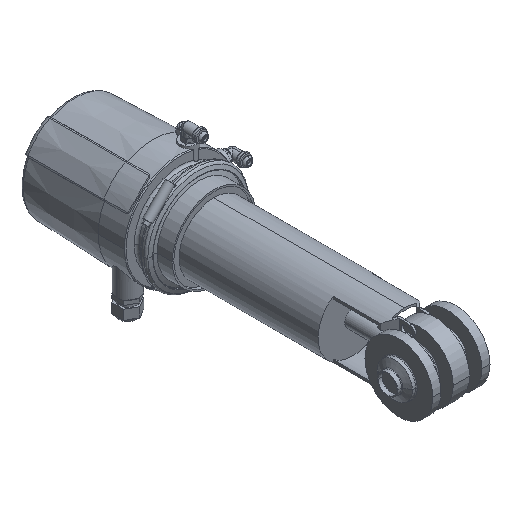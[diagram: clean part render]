
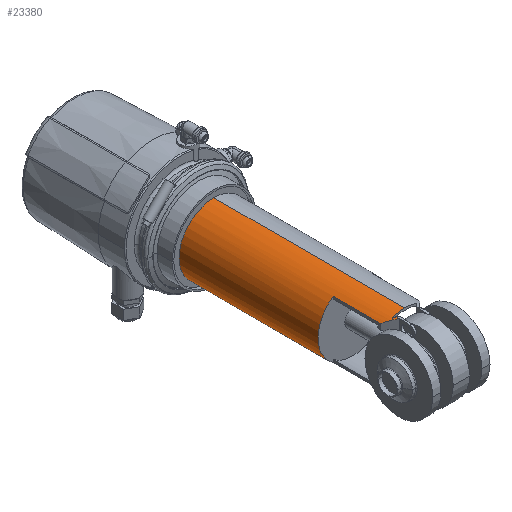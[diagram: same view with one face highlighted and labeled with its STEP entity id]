
A CAD part, isometric view. The second image highlights one B-rep face of the part: STEP entity #23380.
In plain terms, the highlighted cylindrical face has radius 42.5 mm (diameter 85 mm), a partial arc.
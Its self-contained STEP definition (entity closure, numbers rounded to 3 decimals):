
#16940=CARTESIAN_POINT('',(-66.14,291.989,
-40.62));
#16950=DIRECTION('',(0.,-1.,0.));
#16960=VECTOR('',#16950,1.);
#16970=LINE('',#16940,#16960);
#16980=CARTESIAN_POINT('',(-66.14,25.635,
-40.62));
#16990=VERTEX_POINT('',#16980);
#17020=CARTESIAN_POINT('',(-66.14,29.17,
-40.62));
#17030=VERTEX_POINT('',#17020);
#17040=EDGE_CURVE('',#17030,#16990,#16970,.T.);
#21120=CARTESIAN_POINT('',(-54.64,37.135,
-35.075));
#21130=VERTEX_POINT('',#21120);
#21570=CARTESIAN_POINT('',(-54.64,95.128,
-35.075));
#21580=VERTEX_POINT('',#21570);
#21610=CARTESIAN_POINT('',(-54.64,291.989,
-35.075));
#21620=DIRECTION('',(0.,-1.,0.));
#21630=VECTOR('',#21620,1.);
#21640=LINE('',#21610,#21630);
#21650=EDGE_CURVE('',#21580,#21130,#21640,.T.);
#22030=CARTESIAN_POINT('',(-78.64,95.128,
0.));
#22040=DIRECTION('',(0.,-1.,0.));
#22050=DIRECTION('',(0.,0.,1.));
#22060=AXIS2_PLACEMENT_3D('',#22030,#22040,#22050);
#22070=CYLINDRICAL_SURFACE('',#22060,42.5);
#22080=CARTESIAN_POINT('',(-78.64,95.128,-42.5));
#22090=DIRECTION('',(0.,-1.,0.));
#22100=VECTOR('',#22090,1.);
#22110=LINE('',#22080,#22100);
#22120=CARTESIAN_POINT('',(-78.64,265.128,-42.5));
#22130=VERTEX_POINT('',#22120);
#22140=CARTESIAN_POINT('',(-78.64,31.728,-42.5));
#22150=VERTEX_POINT('',#22140);
#22160=EDGE_CURVE('',#22130,#22150,#22110,.T.);
#22170=ORIENTED_EDGE('',*,*,#22160,.F.);
#22180=CARTESIAN_POINT('',(-78.64,31.728,
0.));
#22190=DIRECTION('',(0.,-1.,0.));
#22200=DIRECTION('',(0.,0.,-1.));
#22210=AXIS2_PLACEMENT_3D('',#22180,#22190,#22200);
#22220=CIRCLE('',#22210,42.5);
#22230=CARTESIAN_POINT('',(-63.582,31.728,
-39.743));
#22240=VERTEX_POINT('',#22230);
#22250=EDGE_CURVE('',#22150,#22240,#22220,.T.);
#22260=ORIENTED_EDGE('',*,*,#22250,.F.);
#22270=CARTESIAN_POINT('',(-78.64,16.67,
0.));
#22280=DIRECTION('',(-0.707,0.707,0.));
#22290=DIRECTION('',(0.707,0.707,0.));
#22300=AXIS2_PLACEMENT_3D('',#22270,#22280,#22290);
#22310=ELLIPSE('',#22300,60.104,42.5);
#22320=EDGE_CURVE('',#22240,#17030,#22310,.T.);
#22330=ORIENTED_EDGE('',*,*,#22320,.F.);
#22340=ORIENTED_EDGE('',*,*,#17040,.F.);
#22350=CARTESIAN_POINT('',(-78.64,13.135,
0.));
#22360=DIRECTION('',(0.707,-0.707,0.));
#22370=DIRECTION('',(-0.707,-0.707,0.));
#22380=AXIS2_PLACEMENT_3D('',#22350,#22360,#22370);
#22390=ELLIPSE('',#22380,60.104,42.5);
#22400=EDGE_CURVE('',#16990,#21130,#22390,.T.);
#22410=ORIENTED_EDGE('',*,*,#22400,.F.);
#22420=ORIENTED_EDGE('',*,*,#21650,.T.);
#22430=CARTESIAN_POINT('',(-78.64,95.128,
0.));
#22440=DIRECTION('',(0.,-1.,0.));
#22450=DIRECTION('',(0.,0.,-1.));
#22460=AXIS2_PLACEMENT_3D('',#22430,#22440,#22450);
#22470=CIRCLE('',#22460,42.5);
#22480=CARTESIAN_POINT('',(-54.64,95.128,
35.075));
#22490=VERTEX_POINT('',#22480);
#22500=EDGE_CURVE('',#21580,#22490,#22470,.T.);
#22510=ORIENTED_EDGE('',*,*,#22500,.F.);
#22520=CARTESIAN_POINT('',(-54.64,291.989,
35.075));
#22530=DIRECTION('',(0.,-1.,0.));
#22540=VECTOR('',#22530,1.);
#22550=LINE('',#22520,#22540);
#22560=CARTESIAN_POINT('',(-54.64,37.135,
35.075));
#22570=VERTEX_POINT('',#22560);
#22580=EDGE_CURVE('',#22490,#22570,#22550,.T.);
#22590=ORIENTED_EDGE('',*,*,#22580,.F.);
#22600=CARTESIAN_POINT('',(-78.64,13.135,
0.));
#22610=DIRECTION('',(-0.707,0.707,0.));
#22620=DIRECTION('',(-0.707,-0.707,0.));
#22630=AXIS2_PLACEMENT_3D('',#22600,#22610,#22620);
#22640=ELLIPSE('',#22630,60.104,42.5);
#22650=CARTESIAN_POINT('',(-66.14,25.635,
40.62));
#22660=VERTEX_POINT('',#22650);
#22670=EDGE_CURVE('',#22660,#22570,#22640,.T.);
#22680=ORIENTED_EDGE('',*,*,#22670,.T.);
#22690=CARTESIAN_POINT('',(-66.14,291.989,
40.62));
#22700=DIRECTION('',(0.,-1.,0.));
#22710=VECTOR('',#22700,1.);
#22720=LINE('',#22690,#22710);
#22730=CARTESIAN_POINT('',(-66.14,19.18,
40.62));
#22740=VERTEX_POINT('',#22730);
#22750=EDGE_CURVE('',#22660,#22740,#22720,.T.);
#22760=ORIENTED_EDGE('',*,*,#22750,.F.);
#22770=CARTESIAN_POINT('',(-78.64,-337.339,
0.));
#22780=DIRECTION('',(0.,-0.113,0.994));
#22790=DIRECTION('',(0.,0.994,0.113));
#22800=AXIS2_PLACEMENT_3D('',#22770,#22780,#22790);
#22810=ELLIPSE('',#22800,375.431,42.5);
#22820=CARTESIAN_POINT('',(-67.993,23.782,
41.145));
#22830=VERTEX_POINT('',#22820);
#22840=EDGE_CURVE('',#22740,#22830,#22810,.T.);
#22850=ORIENTED_EDGE('',*,*,#22840,.F.);
#22860=CARTESIAN_POINT('',(-78.64,13.135,
0.));
#22870=DIRECTION('',(0.707,-0.707,0.));
#22880=DIRECTION('',(0.707,0.707,0.));
#22890=AXIS2_PLACEMENT_3D('',#22860,#22870,#22880);
#22900=ELLIPSE('',#22890,60.104,42.5);
#22910=CARTESIAN_POINT('',(-68.64,23.135,
41.307));
#22920=VERTEX_POINT('',#22910);
#22930=EDGE_CURVE('',#22830,#22920,#22900,.T.);
#22940=ORIENTED_EDGE('',*,*,#22930,.F.);
#22950=CARTESIAN_POINT('',(-68.64,291.989,
41.307));
#22960=DIRECTION('',(0.,-1.,0.));
#22970=VECTOR('',#22960,1.);
#22980=LINE('',#22950,#22970);
#22990=CARTESIAN_POINT('',(-68.64,26.67,
41.307));
#23000=VERTEX_POINT('',#22990);
#23010=EDGE_CURVE('',#23000,#22920,#22980,.T.);
#23020=ORIENTED_EDGE('',*,*,#23010,.T.);
#23030=CARTESIAN_POINT('',(-78.64,16.67,
0.));
#23040=DIRECTION('',(-0.707,0.707,0.));
#23050=DIRECTION('',(-0.707,-0.707,0.));
#23060=AXIS2_PLACEMENT_3D('',#23030,#23040,#23050);
#23070=ELLIPSE('',#23060,60.104,42.5);
#23080=CARTESIAN_POINT('',(-63.582,31.728,
39.743));
#23090=VERTEX_POINT('',#23080);
#23100=EDGE_CURVE('',#23000,#23090,#23070,.T.);
#23110=ORIENTED_EDGE('',*,*,#23100,.F.);
#23120=CARTESIAN_POINT('',(-78.64,31.728,
0.));
#23130=DIRECTION('',(0.,-1.,0.));
#23140=DIRECTION('',(0.,0.,1.));
#23150=AXIS2_PLACEMENT_3D('',#23120,#23130,#23140);
#23160=CIRCLE('',#23150,42.5);
#23170=CARTESIAN_POINT('',(-78.64,31.728,42.5));
#23180=VERTEX_POINT('',#23170);
#23190=EDGE_CURVE('',#23090,#23180,#23160,.T.);
#23200=ORIENTED_EDGE('',*,*,#23190,.F.);
#23210=CARTESIAN_POINT('',(-78.64,95.128,42.5));
#23220=DIRECTION('',(0.,-1.,0.));
#23230=VECTOR('',#23220,1.);
#23240=LINE('',#23210,#23230);
#23250=CARTESIAN_POINT('',(-78.64,265.128,42.5));
#23260=VERTEX_POINT('',#23250);
#23270=EDGE_CURVE('',#23260,#23180,#23240,.T.);
#23280=ORIENTED_EDGE('',*,*,#23270,.T.);
#23290=CARTESIAN_POINT('',(-78.64,265.128,
0.));
#23300=DIRECTION('',(0.,-1.,0.));
#23310=DIRECTION('',(0.,0.,1.));
#23320=AXIS2_PLACEMENT_3D('',#23290,#23300,#23310);
#23330=CIRCLE('',#23320,42.5);
#23340=EDGE_CURVE('',#22130,#23260,#23330,.T.);
#23350=ORIENTED_EDGE('',*,*,#23340,.T.);
#23360=EDGE_LOOP('',(#23350,#23280,#23200,#23110,#23020,#22940,#22850,
#22760,#22680,#22590,#22510,#22420,#22410,#22340,#22330,#22260,#22170));
#23370=FACE_OUTER_BOUND('',#23360,.T.);
#23380=ADVANCED_FACE('',(#23370),#22070,.T.);
